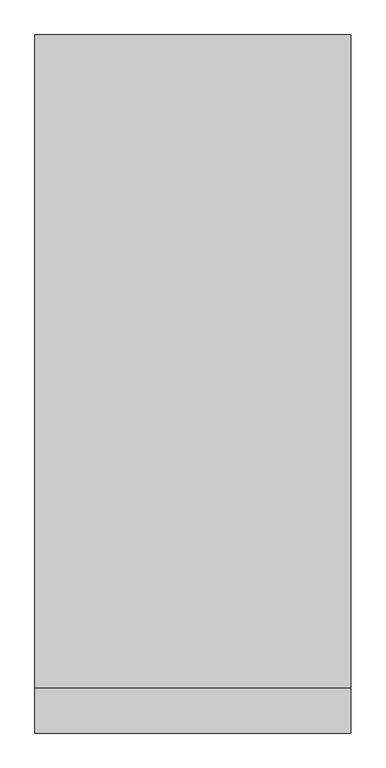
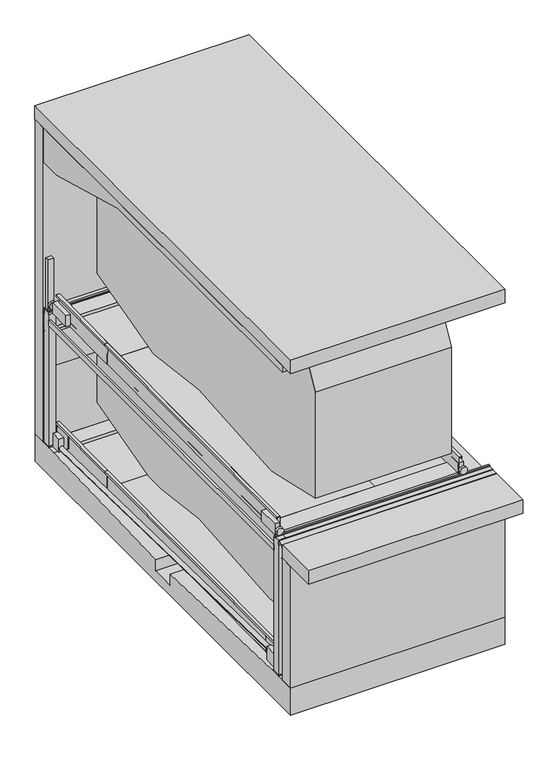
"""IFC4 building model written with IfcOpenShell, lengths in millimetres: proxy geometry, TrendVario_6100 : TrendVario_6100."""

from ifc_helpers import new_model, si_unit, point, frame, frame_2d, origin, place, context, project, spatial, polyline, circle_curve, trimmed, segment, composite_curve, outline, extrude, faceted_brep, source, transform, mapped, element, save
from ifc_brep_helpers import plane_surface, cylinder_surface, advanced_brep


def generic_models_f6fa3816(model_context):
    return source(origin(), model_context, "Body", "SolidModel", [
        extrude(outline(polyline([(0.0, -1500.0), (0.0, 0.0), (1170.0, 0.0), (1170.0, -1500.0), (0.0, -1500.0)])), frame((100.0, 4411.8759587, 12.9805913), z_axis=(0.0, -0.008726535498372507, 0.9999619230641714), x_axis=(0.0, 0.9999619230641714, 0.008726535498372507)), (0.0, 0.0, 1.0), 8.0),
        extrude(outline(polyline([(5343.3866911, 73.1117424), (5581.3776288, 75.1886579), (5581.7615964, 31.1903332), (5578.7617106, 31.1641536), (5578.4039226, 72.1625925), (5346.4127565, 70.1380362), (5346.7705444, 29.1395974), (5343.7706587, 29.1134178), (5343.3866911, 73.1117424)])), frame((100.0, 0.0, 0.0), z_axis=(1.0, 0.0, 0.0), x_axis=(0.0, 1.0, 0.0)), (0.0, 0.0, 1.0), 1500.0),
        extrude(outline(polyline([(320.0, 0.0), (320.0, -43.0), (290.0, -43.0), (290.0, -40.0), (317.0, -40.0), (317.0, -3.0), (0.0, -3.0), (0.0, 52.0), (47.0, 52.0), (47.0, 89.0), (49.9999999, 89.0), (49.9999999, 49.0), (2.9999999, 49.0), (2.9999999, 0.0), (320.0, 0.0)])), frame((100.0, 4412.3122854, -37.0175048), z_axis=(0.0, 0.9999619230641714, 0.008726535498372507), x_axis=(0.0, -0.008726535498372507, 0.9999619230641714)), (0.0, 0.0, 1.0), 1170.0),
        extrude(outline(composite_curve([segment(trimmed(circle_curve(frame_2d((-273.0, 50.2890841)), 6.0), [point((-273.0, 44.2890841))], [point((-273.0, 56.2890841))], False, "CARTESIAN"), True, "CONTINUOUS"), segment(trimmed(circle_curve(frame_2d((-273.0, 50.2890841)), 6.0), [point((-273.0, 56.2890841))], [point((-273.0, 44.2890841))], False, "CARTESIAN"), True, "CONTINUOUS")], self_intersect=False)), frame((0.0, 5774.7632152, 0.0), z_axis=(0.0, 1.0, 0.0), x_axis=(0.0, 0.0, 1.0)), (0.0, 0.0, 1.0), 150.0),
        extrude(outline(composite_curve([segment(trimmed(circle_curve(frame_2d((-273.0, 2650.0)), 6.0), [point((-267.0, 2650.0))], [point((-279.0, 2650.0))], False, "CARTESIAN"), True, "CONTINUOUS"), segment(trimmed(circle_curve(frame_2d((-273.0, 2650.0)), 6.0), [point((-279.0, 2650.0))], [point((-267.0, 2650.0))], False, "CARTESIAN"), True, "CONTINUOUS")], self_intersect=False)), frame((0.0, 5769.5664345, 0.0), z_axis=(0.0, 1.0, 0.0), x_axis=(0.0, 0.0, 1.0)), (0.0, 0.0, 1.0), 150.0),
        extrude(outline(composite_curve([segment(trimmed(circle_curve(frame_2d((-273.0, 2650.0)), 6.0), [point((-267.0, 2650.0))], [point((-279.0, 2650.0))], False, "CARTESIAN"), True, "CONTINUOUS"), segment(trimmed(circle_curve(frame_2d((-273.0, 2650.0)), 6.0), [point((-279.0, 2650.0))], [point((-267.0, 2650.0))], False, "CARTESIAN"), True, "CONTINUOUS")], self_intersect=False)), frame((0.0, -50.0, 0.0), z_axis=(0.0, 1.0, 0.0), x_axis=(0.0, 0.0, 1.0)), (0.0, 0.0, 1.0), 150.0),
        extrude(outline(composite_curve([segment(trimmed(circle_curve(frame_2d((-273.0, 50.0)), 6.0), [point((-273.0, 56.0))], [point((-273.0, 44.0))], False, "CARTESIAN"), True, "CONTINUOUS"), segment(trimmed(circle_curve(frame_2d((-273.0, 50.0)), 6.0), [point((-273.0, 44.0))], [point((-273.0, 56.0))], False, "CARTESIAN"), True, "CONTINUOUS")], self_intersect=False)), frame((0.0, -50.0, 0.0), z_axis=(0.0, 1.0, 0.0), x_axis=(0.0, 0.0, 1.0)), (0.0, 0.0, 1.0), 150.0),
        extrude(outline(composite_curve([segment(trimmed(circle_curve(frame_2d((145.0, 150.0)), 6.0), [point((139.0, 150.0))], [point((151.0, 150.0))], False, "CARTESIAN"), True, "CONTINUOUS"), segment(trimmed(circle_curve(frame_2d((145.0, 150.0)), 6.0), [point((151.0, 150.0))], [point((139.0, 150.0))], False, "CARTESIAN"), True, "CONTINUOUS")], self_intersect=False)), frame((0.0, 0.0, -2150.0), z_axis=(0.0, 0.0, 1.0), x_axis=(1.0, 0.0, 0.0)), (0.0, 0.0, 1.0), 150.0),
        extrude(outline(composite_curve([segment(trimmed(circle_curve(frame_2d((2555.0, 150.0)), 6.0), [point((2549.0, 150.0))], [point((2561.0, 150.0))], False, "CARTESIAN"), True, "CONTINUOUS"), segment(trimmed(circle_curve(frame_2d((2555.0, 150.0)), 6.0), [point((2561.0, 150.0))], [point((2549.0, 150.0))], False, "CARTESIAN"), True, "CONTINUOUS")], self_intersect=False)), frame((0.0, 0.0, -2150.0), z_axis=(0.0, 0.0, 1.0), x_axis=(1.0, 0.0, 0.0)), (0.0, 0.0, 1.0), 150.0),
        extrude(outline(composite_curve([segment(trimmed(circle_curve(frame_2d((2555.0, 5722.5588178)), 6.0), [point((2549.0, 5722.5588178))], [point((2561.0, 5722.5588178))], False, "CARTESIAN"), True, "CONTINUOUS"), segment(trimmed(circle_curve(frame_2d((2555.0, 5722.5588178)), 6.0), [point((2561.0, 5722.5588178))], [point((2549.0, 5722.5588178))], False, "CARTESIAN"), True, "CONTINUOUS")], self_intersect=False)), frame((0.0, 0.0, -2150.0), z_axis=(0.0, 0.0, 1.0), x_axis=(1.0, 0.0, 0.0)), (0.0, 0.0, 1.0), 150.0),
        extrude(outline(polyline([(320.0, 0.0), (3.0, 0.0), (3.0, -49.0), (49.9999999, -49.0), (49.9999999, -89.0), (47.0, -89.0), (47.0, -52.0), (0.0, -52.0), (0.0, 3.0), (317.0, 3.0), (317.0, 40.0), (290.0, 40.0), (290.0, 43.0), (320.0, 43.0), (320.0, 0.0)])), frame((2600.0, 237.7412679, -1960.4094164), z_axis=(0.0, 0.9999619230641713, 0.008726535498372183), x_axis=(0.0, -0.008726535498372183, 0.9999619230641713)), (0.0, 0.0, 1.0), 4178.0),
        extrude(outline(polyline([(1941.867435, 0.0), (1941.867435, -1000.0), (-1962.132565, -1000.0), (-1962.132565, 0.0), (1941.867435, 0.0)])), frame((1600.0, 2473.3523611, -1890.89763), z_axis=(0.0, -0.008726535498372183, 0.9999619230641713), x_axis=(0.0, 0.9999619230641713, 0.008726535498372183)), (0.0, 0.0, 1.0), 8.0),
        extrude(outline(polyline([(0.0, -136.0), (0.0, 0.0), (67.0, 0.0), (67.0, -136.0), (0.0, -136.0)])), frame((20.0, 5591.7992407, -1943.6900531), z_axis=(0.0, -0.008726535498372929, 0.9999619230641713), x_axis=(1.0, 0.0, 0.0)), (0.0, 0.0, 1.0), 195.0),
        extrude(outline(polyline([(5613.3985296, -1668.4910874), (5616.1473883, -1983.4790932), (5481.1525287, -1984.6571755), (5344.9795868, -1850.8403982), (5342.7979529, -1600.8499174), (5582.7888144, -1598.7555489), (5583.3996719, -1668.7528835), (5613.3985296, -1668.4910874)])), frame((87.0, 0.0, 0.0), z_axis=(1.0, 0.0, 0.0), x_axis=(0.0, 1.0, 0.0)), (0.0, 0.0, 1.0), 10.0),
        extrude(outline(polyline([(0.0, -1500.0), (0.0, 0.0), (1170.0, 0.0), (1170.0, -1500.0), (0.0, -1500.0)])), frame((100.0, 4415.1458963, -1873.955505), z_axis=(0.0, -0.008726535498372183, 0.9999619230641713), x_axis=(0.0, 0.9999619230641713, 0.008726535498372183)), (0.0, 0.0, 1.0), 8.0),
        extrude(outline(polyline([(5346.6566288, -1813.8243539), (5584.6475665, -1811.7474385), (5585.031534, -1855.7457631), (5582.0316483, -1855.7719427), (5581.6738603, -1814.7735039), (5349.6826942, -1816.7980601), (5350.0404821, -1857.7964989), (5347.0405963, -1857.8226786), (5346.6566288, -1813.8243539)])), frame((100.0, 0.0, 0.0), z_axis=(1.0, 0.0, 0.0), x_axis=(0.0, 1.0, 0.0)), (0.0, 0.0, 1.0), 1500.0),
        extrude(outline(polyline([(320.0, 0.0), (320.0, -43.0), (290.0, -43.0), (290.0, -40.0), (317.0, -40.0), (317.0, -3.0), (0.0, -3.0), (0.0, 52.0), (47.0, 52.0), (47.0, 89.0), (50.0, 89.0), (50.0, 49.0), (3.0, 49.0), (3.0, 0.0), (320.0, 0.0)])), frame((100.0, 4415.5822231, -1923.9536012), z_axis=(0.0, 0.9999619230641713, 0.008726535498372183), x_axis=(0.0, -0.008726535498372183, 0.9999619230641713)), (0.0, 0.0, 1.0), 1170.0),
        extrude(outline(polyline([(320.0, 0.0), (3.0, 0.0), (3.0, -49.0), (49.9999999, -49.0), (49.9999999, -89.0), (47.0, -89.0), (47.0, -52.0), (0.0, -52.0), (0.0, 3.0), (317.0, 3.0), (317.0, 40.0), (290.0, 40.0), (290.0, 43.0), (320.0, 43.0), (320.0, 0.0)])), frame((2600.0, 232.7875414, -73.2083418), z_axis=(0.0, 0.9999619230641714, 0.008726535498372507), x_axis=(0.0, -0.008726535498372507, 0.9999619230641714)), (0.0, 0.0, 1.0), 4178.0),
        extrude(outline(polyline([(1941.867435, 0.0), (1941.867435, -1000.0), (-1962.132565, -1000.0), (-1962.132565, 0.0), (1941.867435, 0.0)])), frame((1600.0, 2468.3986345, -3.6965555), z_axis=(0.0, -0.008726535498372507, 0.9999619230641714), x_axis=(0.0, 0.9999619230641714, 0.008726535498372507)), (0.0, 0.0, 1.0), 8.0),
        extrude(outline(composite_curve([segment(trimmed(circle_curve(frame_2d((145.0, 5722.5588178)), 6.0), [point((139.0, 5722.5588178))], [point((151.0, 5722.5588178))], False, "CARTESIAN"), True, "CONTINUOUS"), segment(trimmed(circle_curve(frame_2d((145.0, 5722.5588178)), 6.0), [point((151.0, 5722.5588178))], [point((139.0, 5722.5588178))], False, "CARTESIAN"), True, "CONTINUOUS")], self_intersect=False)), frame((0.0, 0.0, -2150.0), z_axis=(0.0, 0.0, 1.0), x_axis=(1.0, 0.0, 0.0)), (0.0, 0.0, 1.0), 150.0),
        extrude(outline(polyline([(5999.9581167, -2000.0), (5999.9581167, -2400.0), (-200.0, -2400.0), (-200.0, -2000.0), (250.0, -2000.0), (2725.0057083, -2086.4291038), (2725.0057083, -2247.5791163), (3075.0057083, -2247.5791163), (3075.0057083, -2086.4272426), (5549.9581167, -2000.0), (5999.9581167, -2000.0)])), frame((0.0, 0.0, 0.0), z_axis=(1.0, 0.0, 0.0), x_axis=(0.0, 1.0, 0.0)), (0.0, 0.0, 1.0), 3000.0),
        extrude(outline(polyline([(0.0, 5671.7632152), (30.0, 5671.7632152), (30.0, 200.0), (0.0, 200.0), (0.0, 5671.7632152)])), frame((0.0, 0.0, -200.0), z_axis=(0.0, 0.0, 1.0), x_axis=(1.0, 0.0, 0.0)), (0.0, 0.0, 1.0), 80.0),
        extrude(outline(polyline([(164.0, 210.0), (164.0, 90.0), (0.0, 90.0), (0.0, 210.0), (164.0, 210.0)])), frame((0.0, 0.0, -2000.0), z_axis=(0.0, 0.0, 1.0), x_axis=(1.0, 0.0, 0.0)), (0.0, 0.0, 1.0), 18.0),
        extrude(outline(polyline([(164.0, 5784.7632152), (164.0, 5661.7632152), (0.0, 5661.7632152), (0.0, 5784.7632152), (164.0, 5784.7632152)])), frame((0.0, 0.0, -2000.0), z_axis=(0.0, 0.0, 1.0), x_axis=(1.0, 0.0, 0.0)), (0.0, 0.0, 1.0), 18.0),
        extrude(outline(polyline([(2536.0, 5779.5664345), (2700.0, 5779.5664345), (2700.0, 5659.5664345), (2536.0, 5659.5664345), (2536.0, 5779.5664345)])), frame((0.0, 0.0, -2000.0), z_axis=(0.0, 0.0, 1.0), x_axis=(1.0, 0.0, 0.0)), (0.0, 0.0, 1.0), 18.0),
        extrude(outline(polyline([(2536.0, 90.0), (2536.0, 210.0), (2700.0, 210.0), (2700.0, 90.0), (2536.0, 90.0)])), frame((0.0, 0.0, -2000.0), z_axis=(0.0, 0.0, 1.0), x_axis=(1.0, 0.0, 0.0)), (0.0, 0.0, 1.0), 18.0),
        extrude(outline(composite_curve([segment(trimmed(circle_curve(frame_2d((-34.8939913, -3.2601795)), 30.0), [point((-64.8939913, -3.2601795))], [point((-4.8939913, -3.2601795))], False, "CARTESIAN"), True, "CONTINUOUS"), segment(trimmed(circle_curve(frame_2d((-34.8939913, -3.2601795)), 30.0), [point((-4.8939913, -3.2601795))], [point((-64.8939913, -3.2601795))], False, "CARTESIAN"), True, "CONTINUOUS")], self_intersect=False)), frame((20.0, 5455.4339411, -1902.4242792), z_axis=(0.0, -0.9997806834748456, 0.02094241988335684), x_axis=(-1.0, 0.0, 0.0)), (0.0, 0.0, 1.0), 5042.7986422),
        extrude(outline(composite_curve([segment(trimmed(circle_curve(frame_2d((39.6709454, 48.2295861)), 30.0), [point((9.6709454, 48.2295861))], [point((69.6709454, 48.2295861))], False, "CARTESIAN"), True, "CONTINUOUS"), segment(trimmed(circle_curve(frame_2d((39.6709454, 48.2295861)), 30.0), [point((69.6709454, 48.2295861))], [point((9.6709454, 48.2295861))], False, "CARTESIAN"), True, "CONTINUOUS")], self_intersect=False)), frame((2603.0, 5455.8267219, -1947.4325068), z_axis=(0.0, -0.9997806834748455, 0.020942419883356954), x_axis=(1.0, 0.0, 0.0)), (0.0, 0.0, 1.0), 5043.1761415),
        faceted_brep([(2670.0, 210.0, -120.0), (2670.0, 210.0, -200.0), (3000.0, 210.0, -200.0), (3000.0, 210.0, -120.0), (3000.0, 5659.5664345, -120.0), (3000.0, 5659.5664345, -200.0), (2673.0, 5659.5664345, -200.0), (2673.0, 5659.5664345, -120.0), (2670.0, 232.7875088, -120.0), (2670.0, 232.7875088, -200.0), (2670.0, 5656.8533035, -120.0), (2670.0, 5635.4173681, -200.0), (2670.0, 254.2234442, -200.0), (2673.0, 232.7875088, -200.0), (2673.0, 254.2234442, -200.0), (2673.0, 5635.4173681, -200.0), (2673.0, 5656.8533035, -120.0), (2673.0, 232.7875088, -120.0)], [[[0, 1, 2, 3]], [[4, 5, 6, 7]], [[1, 0, 8, 9]], [[10, 11, 12, 8]], [[2, 1, 9, 13, 14, 12, 11, 15, 6, 5]], [[3, 2, 5, 4]], [[0, 3, 4, 7, 16, 10, 8]], [[15, 16, 7, 6]], [[16, 15, 11, 10]], [[17, 14, 13]], [[8, 17, 13, 9]], [[17, 8, 12, 14]]]),
        extrude(outline(polyline([(2700.0, 5669.5664345), (2600.0, 5669.5664345), (2600.0, 5769.5664345), (2700.0, 5769.5664345), (2700.0, 5669.5664345)])), frame((0.0, 0.0, -2000.0), z_axis=(0.0, 0.0, 1.0), x_axis=(1.0, 0.0, 0.0)), (0.0, 0.0, 1.0), 2000.0),
        extrude(outline(polyline([(237.7566323, -1940.8501873), (236.1472757, -1756.4361785), (413.7566323, -1756.4361785), (413.7566323, -1939.3142585), (237.7566323, -1940.8501873)])), frame((2613.0, 0.0, 0.0), z_axis=(1.0, 0.0, 0.0), x_axis=(0.0, 1.0, 0.0)), (0.0, 0.0, 1.0), 70.0),
        extrude(outline(polyline([(237.7412679, -1960.4094164), (235.9626972, -1756.6053926), (413.7412679, -1756.6053926), (413.7412679, -1958.8734877), (237.7412679, -1960.4094164)])), frame((20.0, 0.0, 0.0), z_axis=(1.0, 0.0, 0.0), x_axis=(0.0, 1.0, 0.0)), (0.0, 0.0, 1.0), 70.0),
        extrude(outline(polyline([(0.0, -136.0), (0.0, 0.0), (67.0, 0.0), (67.0, -136.0), (0.0, -136.0)])), frame((2610.0, 5591.7992407, -1943.6900531), z_axis=(0.0, -0.008726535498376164, 0.9999619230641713), x_axis=(1.0, 0.0, 0.0)), (0.0, 0.0, 1.0), 195.0),
        extrude(outline(polyline([(2600.0, 200.0), (2700.0, 200.0), (2700.0, 100.0), (2600.0, 100.0), (2600.0, 200.0)])), frame((0.0, 0.0, -2000.0), z_axis=(0.0, 0.0, 1.0), x_axis=(1.0, 0.0, 0.0)), (0.0, 0.0, 1.0), 2000.0),
        extrude(outline(composite_curve([segment(polyline([(5620.0145776, -585.9914336), (5620.0145776, -1335.9999998), (5618.0221903, -1335.9999998), (5618.0221903, -1527.7646518), (4313.3699728, -1877.3451599)]), True, "CONTINUOUS"), segment(trimmed(circle_curve(frame_2d((4247.6299354, -1632.0)), 254.0), [point((4313.3699728, -1877.3451599))], [point((4224.7221662, -1884.9648871))], False, "CARTESIAN"), True, "CONTINUOUS"), segment(polyline([(4224.7221662, -1884.9648871), (3145.3807126, -1751.0), (1424.180165, -1884.6085614)]), True, "CONTINUOUS"), segment(trimmed(circle_curve(frame_2d((1397.6299354, -1632.0)), 254.0), [point((1424.180165, -1884.6085614))], [point((1340.4923675, -1879.4899965))], False, "CARTESIAN"), True, "CONTINUOUS"), segment(polyline([(1340.4923675, -1879.4899965), (320.456461, -1643.9961518), (320.456461, -689.5033287), (622.3673675, -136.0), (4020.0450351, -135.9999998), (5620.0145776, -585.9914336)]), True, "CONTINUOUS")], self_intersect=False)), frame((650.0, 0.0, 0.0), z_axis=(1.0, 0.0, 0.0), x_axis=(0.0, 1.0, 0.0)), (0.0, 0.0, 1.0), 1900.0),
        extrude(outline(polyline([(3000.0, -200.0), (0.0, -200.0), (0.0, 0.0), (3000.0, 0.0), (3000.0, -200.0)])), frame((0.0, 0.0, -2000.0), z_axis=(0.0, 0.0, 1.0), x_axis=(1.0, 0.0, 0.0)), (0.0, 0.0, 1.0), 1800.0),
        faceted_brep([(100.0, 4412.2895056, -1603.966424), (100.0, 4415.0558174, -1920.9543536), (149.0, 4415.0558174, -1920.9543536), (149.0, 4414.6456702, -1873.9561432), (189.0, 4414.6456702, -1873.9561432), (189.0, 4414.6718498, -1876.956029), (152.0, 4414.6718498, -1876.956029), (152.0, 4415.081997, -1923.9542393), (97.0, 4415.081997, -1923.9542393), (97.0, 4412.3156852, -1606.9663097), (60.0, 4412.3156852, -1606.9663097), (60.0, 4412.5513017, -1633.9652817), (57.0, 4412.5513017, -1633.9652817), (57.0, 4412.2895056, -1603.966424), (100.0, 237.741276, -1960.4093395), (100.0, 234.9487847, -1640.4215242), (57.0, 234.9487847, -1640.4215242), (57.0, 235.2105807, -1670.4203818), (60.0, 235.2105807, -1670.4203818), (60.0, 234.9749643, -1643.4214099), (97.0, 234.9749643, -1643.4214099), (97.0, 237.741276, -1960.4093395), (100.0, 337.7374683, -1959.536686), (100.0, 337.7112887, -1956.5368002), (149.0, 337.7112887, -1956.5368002), (149.0, 337.3011416, -1909.5385898), (189.0, 337.3011416, -1909.5385898), (189.0, 337.3273212, -1912.5384756), (152.0, 337.3273212, -1912.5384756), (152.0, 337.7374683, -1959.536686)], [[[0, 1, 2, 3, 4, 5, 6, 7, 8, 9, 10, 11, 12, 13]], [[14, 15, 16, 17, 18, 19, 20, 21]], [[1, 0, 15, 14, 22, 23]], [[2, 1, 23, 24]], [[3, 2, 24, 25]], [[4, 3, 25, 26]], [[5, 4, 26, 27]], [[6, 5, 27, 28]], [[7, 6, 28, 29]], [[8, 7, 29, 22, 14, 21]], [[9, 8, 21, 20]], [[10, 9, 20, 19]], [[11, 10, 19, 18]], [[12, 11, 18, 17]], [[13, 12, 17, 16]], [[0, 13, 16, 15]], [[23, 22, 29, 28, 27, 26, 25, 24]]]),
        extrude(outline(polyline([(556.8174373, -1957.6248809), (237.7412679, -1960.4094164), (235.9626972, -1756.6053926), (322.913076, -1669.6550138), (556.8174373, -1667.6137613), (556.8174373, -1957.6248809)])), frame((90.0, 0.0, 0.0), z_axis=(1.0, 0.0, 0.0), x_axis=(0.0, 1.0, 0.0)), (0.0, 0.0, 1.0), 10.0),
        extrude(outline(polyline([(342.6444987, -1649.9235911), (556.8174373, -1648.0545322), (556.8174373, -1938.0656517), (237.7412679, -1940.8501873), (236.1319113, -1756.4361785), (342.6444987, -1649.9235911)])), frame((2603.0, 0.0, 0.0), z_axis=(1.0, 0.0, 0.0), x_axis=(0.0, 1.0, 0.0)), (0.0, 0.0, 1.0), 10.0),
        extrude(outline(polyline([(5582.7713613, -1596.755625), (5583.3996719, -1668.7528835), (5613.3985296, -1668.4910874), (5616.1473883, -1983.4790932), (5481.1525287, -1984.6571755), (5344.9795868, -1850.8403982), (5342.7804998, -1598.8499935), (5582.7713613, -1596.755625)])), frame((2600.0, 0.0, 0.0), z_axis=(1.0, 0.0, 0.0), x_axis=(0.0, 1.0, 0.0)), (0.0, 0.0, 1.0), 10.0),
        extrude(outline(polyline([(2600.0, 511.2945081), (2600.0, 241.2945081), (100.0, 241.2945081), (100.0, 511.2945081), (2600.0, 511.2945081)])), frame((0.0, 0.0, -1888.4610204), z_axis=(0.0, 0.0, 1.0), x_axis=(1.0, 0.0, 0.0)), (0.0, 0.0, 1.0), 30.0),
        extrude(outline(polyline([(319.9999232, -43.0), (2.9999232, -43.0), (2.9999232, -92.0), (49.9999231, -92.0), (49.9999231, -132.0), (46.9999232, -132.0), (46.9999232, -95.0), (-7.68e-05, -95.0), (-7.68e-05, -40.0), (316.9999232, -40.0), (316.9999232, -3.0), (289.9999232, -3.0), (289.9999232, 0.0), (319.9999232, 0.0), (319.9999232, -43.0)])), frame((2643.0, 4415.5821906, -1923.9498742), z_axis=(0.0, 0.9999619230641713, 0.008726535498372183), x_axis=(0.0, -0.008726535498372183, 0.9999619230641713)), (0.0, 0.0, 1.0), 1183.1966017),
        extrude(outline(polyline([(100.4126792, 0.0), (100.4126792, -1170.5002127), (-899.5873208, -1170.5002127), (-899.5873208, 0.0), (100.4126792, 0.0)])), frame((2499.5873208, 5585.1013463, -1863.7454585), z_axis=(0.0, -0.008726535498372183, 0.9999619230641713), x_axis=(1.0, 0.0, 0.0)), (0.0, 0.0, 1.0), 8.0),
        extrude(outline(polyline([(5587.3833555, -1811.7198364), (5587.767323, -1855.718161), (5584.7674373, -1855.7443406), (5584.4096493, -1814.7459018), (5352.4184831, -1816.770458), (5352.7762711, -1857.7688968), (5349.7763853, -1857.7950764), (5349.3924178, -1813.7967518), (5587.3833555, -1811.7198364)])), frame((1600.0, 0.0, 0.0), z_axis=(1.0, 0.0, 0.0), x_axis=(0.0, 1.0, 0.0)), (0.0, 0.0, 1.0), 1000.0),
        extrude(outline(polyline([(2038.9337722, 0.0), (2038.9337722, -1500.0), (-1864.3763713, -1500.0), (-1864.3763713, 0.0), (2038.9337722, 0.0)])), frame((1600.0, 2550.3403211, -1890.2294167), z_axis=(0.0, -0.008726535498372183, 0.9999619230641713), x_axis=(0.0, -0.9999619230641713, -0.008726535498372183)), (0.0, 0.0, 1.0), 8.0),
        extrude(outline(polyline([(555.3027268, 0.3516465), (235.3027268, -2.4409511), (235.3027268, 157.5651414), (555.3027268, 160.3577391), (555.3027268, 0.3516465)])), frame((30.0, 0.0, 0.0), z_axis=(1.0, 0.0, 0.0), x_axis=(0.0, 1.0, 0.0)), (0.0, 0.0, 1.0), 70.0),
        extrude(outline(polyline([(5627.0221903, 0.3516465), (5307.0221903, -2.4409511), (5307.0221903, 157.5651414), (5627.0221903, 160.3577391), (5627.0221903, 0.3516465)])), frame((30.0, 0.0, 0.0), z_axis=(1.0, 0.0, 0.0), x_axis=(0.0, 1.0, 0.0)), (0.0, 0.0, 1.0), 70.0),
        extrude(outline(composite_curve([segment(trimmed(circle_curve(frame_2d((73.3516465, 66.0)), 50.0), [point((73.3516465, 16.0))], [point((73.3516465, 116.0))], False, "CARTESIAN"), True, "CONTINUOUS"), segment(trimmed(circle_curve(frame_2d((73.3516465, 66.0)), 50.0), [point((73.3516465, 116.0))], [point((73.3516465, 16.0))], False, "CARTESIAN"), True, "CONTINUOUS")], self_intersect=False)), frame((0.0, 165.3027268, 0.0), z_axis=(0.0, 1.0, 0.0), x_axis=(0.0, 0.0, 1.0)), (0.0, 0.0, 1.0), 35.0),
        extrude(outline(composite_curve([segment(trimmed(circle_curve(frame_2d((73.3516465, 66.0)), 15.0), [point((73.3516465, 51.0))], [point((73.3516465, 81.0))], False, "CARTESIAN"), True, "CONTINUOUS"), segment(trimmed(circle_curve(frame_2d((73.3516465, 66.0)), 15.0), [point((73.3516465, 81.0))], [point((73.3516465, 51.0))], False, "CARTESIAN"), True, "CONTINUOUS")], self_intersect=False)), frame((0.0, 200.3027268, 0.0), z_axis=(0.0, 1.0, 0.0), x_axis=(0.0, 0.0, 1.0)), (0.0, 0.0, 1.0), 35.0),
        extrude(outline(composite_curve([segment(trimmed(circle_curve(frame_2d((73.3516465, 66.0)), 50.0), [point((73.3516465, 16.0))], [point((73.3516465, 116.0))], False, "CARTESIAN"), True, "CONTINUOUS"), segment(trimmed(circle_curve(frame_2d((73.3516465, 66.0)), 50.0), [point((73.3516465, 116.0))], [point((73.3516465, 16.0))], False, "CARTESIAN"), True, "CONTINUOUS")], self_intersect=False)), frame((0.0, 5672.0221903, 0.0), z_axis=(0.0, 1.0, 0.0), x_axis=(0.0, 0.0, 1.0)), (0.0, 0.0, 1.0), 35.0),
        extrude(outline(composite_curve([segment(trimmed(circle_curve(frame_2d((73.3516465, 66.0)), 15.0), [point((73.3516465, 51.0))], [point((73.3516465, 81.0))], False, "CARTESIAN"), True, "CONTINUOUS"), segment(trimmed(circle_curve(frame_2d((73.3516465, 66.0)), 15.0), [point((73.3516465, 81.0))], [point((73.3516465, 51.0))], False, "CARTESIAN"), True, "CONTINUOUS")], self_intersect=False)), frame((0.0, 5627.0221903, 0.0), z_axis=(0.0, 1.0, 0.0), x_axis=(0.0, 0.0, 1.0)), (0.0, 0.0, 1.0), 45.0),
        extrude(outline(polyline([(320.0, 0.0), (320.0, -43.0), (290.0, -43.0), (290.0, -40.0), (317.0, -40.0), (317.0, -3.0), (0.0, -3.0), (0.0, 52.0), (47.0, 52.0), (47.0, 89.0), (50.0, 89.0), (50.0, 49.0), (3.0, 49.0), (3.0, 0.0), (320.0, 0.0)])), frame((100.0, 232.7875088, -73.2046149), z_axis=(0.0, 0.9999619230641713, 0.008726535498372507), x_axis=(0.0, -0.008726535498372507, 0.9999619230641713)), (0.0, 0.0, 1.0), 4177.4997873),
        extrude(outline(polyline([(555.3027268, 0.3516465), (235.3027268, -2.4409511), (235.3027268, 157.5651414), (555.3027268, 160.3577391), (555.3027268, 0.3516465)])), frame((2600.0, 0.0, 0.0), z_axis=(1.0, 0.0, 0.0), x_axis=(0.0, 1.0, 0.0)), (0.0, 0.0, 1.0), 70.0),
        extrude(outline(composite_curve([segment(trimmed(circle_curve(frame_2d((73.3516465, 2635.0)), 50.0), [point((73.3516465, 2685.0))], [point((73.3516465, 2585.0))], False, "CARTESIAN"), True, "CONTINUOUS"), segment(trimmed(circle_curve(frame_2d((73.3516465, 2635.0)), 50.0), [point((73.3516465, 2585.0))], [point((73.3516465, 2685.0))], False, "CARTESIAN"), True, "CONTINUOUS")], self_intersect=False)), frame((0.0, 165.3027268, 0.0), z_axis=(0.0, 1.0, 0.0), x_axis=(0.0, 0.0, 1.0)), (0.0, 0.0, 1.0), 35.0),
        extrude(outline(composite_curve([segment(trimmed(circle_curve(frame_2d((73.3516465, 2635.0)), 15.0), [point((73.3516465, 2650.0))], [point((73.3516465, 2620.0))], False, "CARTESIAN"), True, "CONTINUOUS"), segment(trimmed(circle_curve(frame_2d((73.3516465, 2635.0)), 15.0), [point((73.3516465, 2620.0))], [point((73.3516465, 2650.0))], False, "CARTESIAN"), True, "CONTINUOUS")], self_intersect=False)), frame((0.0, 200.3027268, 0.0), z_axis=(0.0, 1.0, 0.0), x_axis=(0.0, 0.0, 1.0)), (0.0, 0.0, 1.0), 35.0),
        extrude(outline(polyline([(0.0, 5677.3612215), (0.0, 5702.3612215), (3000.0, 5702.3612215), (3000.0, 5677.3612215), (0.0, 5677.3612215)])), frame((0.0, 0.0, 8.0), z_axis=(0.0, 0.0, 1.0), x_axis=(1.0, 0.0, 0.0)), (0.0, 0.0, 1.0), 15.0),
        extrude(outline(polyline([(5778.1588219, 0.0), (5778.1588219, -80.0), (5775.1766811, -80.0), (5775.1766811, -3.0), (5669.5588219, -3.0), (5669.5588219, -30.0), (5666.5588219, -30.0), (5666.5588219, 0.0), (5778.1588219, 0.0)])), frame((0.0, 0.0, 0.0), z_axis=(1.0, 0.0, 0.0), x_axis=(0.0, 1.0, 0.0)), (0.0, 0.0, 1.0), 3000.0),
        extrude(outline(composite_curve([segment(trimmed(circle_curve(frame_2d((73.3516465, 2635.0)), 50.0), [point((73.3516465, 2685.0))], [point((73.3516465, 2585.0))], False, "CARTESIAN"), True, "CONTINUOUS"), segment(trimmed(circle_curve(frame_2d((73.3516465, 2635.0)), 50.0), [point((73.3516465, 2585.0))], [point((73.3516465, 2685.0))], False, "CARTESIAN"), True, "CONTINUOUS")], self_intersect=False)), frame((0.0, 5672.0221903, 0.0), z_axis=(0.0, 1.0, 0.0), x_axis=(0.0, 0.0, 1.0)), (0.0, 0.0, 1.0), 35.0),
        extrude(outline(composite_curve([segment(trimmed(circle_curve(frame_2d((73.3516465, 2635.0)), 15.0), [point((73.3516465, 2650.0))], [point((73.3516465, 2620.0))], False, "CARTESIAN"), True, "CONTINUOUS"), segment(trimmed(circle_curve(frame_2d((73.3516465, 2635.0)), 15.0), [point((73.3516465, 2620.0))], [point((73.3516465, 2650.0))], False, "CARTESIAN"), True, "CONTINUOUS")], self_intersect=False)), frame((0.0, 5627.0221903, 0.0), z_axis=(0.0, 1.0, 0.0), x_axis=(0.0, 0.0, 1.0)), (0.0, 0.0, 1.0), 45.0),
        extrude(outline(polyline([(5627.0221903, 0.3516465), (5307.0221903, -2.4409511), (5307.0221903, 157.5651414), (5627.0221903, 160.3577391), (5627.0221903, 0.3516465)])), frame((2600.0, 0.0, 0.0), z_axis=(1.0, 0.0, 0.0), x_axis=(0.0, 1.0, 0.0)), (0.0, 0.0, 1.0), 70.0),
        extrude(outline(polyline([(506.3333687, 1.7621074), (506.6824301, -38.2363695), (503.6825444, -38.2625491), (503.3596625, -1.263958), (261.7372106, -3.3725652), (105.9840281, -46.5667455), (112.3977491, -69.6938764), (133.5976191, -63.8146321), (134.3993342, -66.7055235), (110.3085729, -73.3864829), (102.2914216, -44.4775693), (261.3160886, -0.376126), (506.3333687, 1.7621074)])), frame((100.0, 0.0, 0.0), z_axis=(1.0, 0.0, 0.0), x_axis=(0.0, 1.0, 0.0)), (0.0, 0.0, 1.0), 2500.0),
        extrude(outline(polyline([(319.9719043, 0.0), (2.9719044, 0.0), (2.9719044, -49.0), (49.9719044, -49.0), (49.9719044, -89.0), (46.9719043, -89.0), (46.9719043, -52.0), (-0.0280957, -52.0), (-0.0280957, 3.0), (316.9719043, 3.0), (316.9719043, 40.0), (289.9719043, 40.0), (289.9719043, 43.0), (319.9719043, 43.0), (319.9719043, 0.0)])), frame((2600.0, 4410.6284234, -36.7451495), z_axis=(0.0, 0.9999619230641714, 0.008726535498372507), x_axis=(0.0, -0.008726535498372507, 0.9999619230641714)), (0.0, 0.0, 1.0), 1171.6814212),
        extrude(outline(polyline([(100.4126792, 0.0), (100.4126792, -1167.2107697), (-899.5873208, -1167.2107697), (-899.5873208, 0.0), (100.4126792, 0.0)])), frame((2499.5873208, 5576.8582614, 23.4305607), z_axis=(0.0, -0.008726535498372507, 0.9999619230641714), x_axis=(1.0, 0.0, 0.0)), (0.0, 0.0, 1.0), 8.0),
        extrude(outline(polyline([(5579.1402706, 75.4561828), (5579.5242381, 31.4578582), (5576.5243524, 31.4316786), (5576.1665644, 72.4301175), (5344.1753983, 70.4055612), (5344.5331862, 29.4071224), (5341.5333004, 29.3809428), (5341.1493329, 73.3792674), (5579.1402706, 75.4561828)])), frame((1600.0, 0.0, 0.0), z_axis=(1.0, 0.0, 0.0), x_axis=(0.0, 1.0, 0.0)), (0.0, 0.0, 1.0), 1000.0),
        extrude(outline(polyline([(2038.9337722, 0.0), (2038.9337722, -1500.0), (-1864.3763713, -1500.0), (-1864.3763713, 0.0), (2038.9337722, 0.0)])), frame((1600.0, 2545.3865539, -3.0246921), z_axis=(0.0, -0.008726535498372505, 0.9999619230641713), x_axis=(0.0, -0.9999619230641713, -0.008726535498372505)), (0.0, 0.0, 1.0), 8.0),
        extrude(outline(polyline([(0.0, -630.5625149), (0.0, 0.0), (3000.0, 0.0), (3000.0, -630.5625149), (0.0, -630.5625149)])), frame((0.0, 0.0, -200.0), z_axis=(0.0, 0.0, 1.0), x_axis=(1.0, 0.0, 0.0)), (0.0, 0.0, 1.0), 200.0),
        faceted_brep([(100.0, 200.0, 8.0), (0.0, 200.0, 8.0), (0.0, 100.0, 8.0), (100.0, 100.0, 8.0), (100.0, 200.0, -2000.0), (100.0, 100.0, -2000.0), (0.0, 100.0, -2000.0), (0.0, 200.0, -2000.0), (0.0, 100.0, -1.0), (0.0, 100.0, 0.0), (100.0, 100.0, -1.0), (100.0, 100.0, 0.0)], [[[0, 1, 2, 3]], [[4, 5, 6, 7]], [[1, 0, 4, 7]], [[2, 1, 7, 6, 8, 9]], [[3, 2, 9, 8, 6, 5, 10, 11]], [[0, 3, 11, 10, 5, 4]]]),
        faceted_brep([(3000.0, 5467.6439919, 2151.0), (3000.0, 3999.9276592, 2551.0062257), (0.0, 3999.9505029, 2551.0), (0.0, 5467.6439919, 2151.0), (3000.0, 5799.9276592, 2151.0), (3000.0, 5799.9276592, 2651.0), (3000.0, 0.0, 2651.0), (3000.0, 0.0, 2551.0), (0.0, 5799.9276592, 2651.0), (0.0, 5799.9276592, 2151.0), (0.0, 0.0, 2551.0), (0.0, 0.0, 2651.0)], [[[0, 1, 2, 3]], [[4, 5, 6, 7, 1, 0]], [[8, 9, 3, 2, 10, 11]], [[5, 4, 9, 8]], [[6, 5, 8, 11]], [[9, 4, 0, 3]], [[7, 10, 2, 1]], [[7, 6, 11, 10]]]),
        faceted_brep([(97.0, 5714.7632152, -1.0), (97.0, 5771.7632152, -1.0), (100.0, 5771.7632152, -1.0), (100.0, 5711.7632152, -1.0), (22.0, 5711.7632152, -1.0), (22.0, 5714.7632152, -1.0), (100.0, 5771.7632152, 0.0), (97.0, 5771.7632152, 0.0), (97.0, 5714.7632152, 0.0), (22.0, 5714.7632152, 0.0), (22.0, 5711.7632152, 0.0), (100.0, 5711.7632152, 0.0), (97.0, 5714.7632152, 0.0), (97.0, 5774.7632152, 740.0), (22.0, 5774.7632152, 740.0), (22.0, 5714.7632152, 740.0), (97.0, 5714.7632152, 740.0), (22.0, 5774.7632152, 0.0), (97.0, 5774.7632152, 0.0), (22.0, 5771.7632152, 0.0)], [[[0, 1, 2, 3, 4, 5]], [[6, 7, 8, 9, 10, 11]], [[3, 2, 6, 11]], [[1, 0, 12, 7]], [[13, 14, 15, 16]], [[17, 18, 7, 12, 9, 19]], [[13, 16, 8, 7, 18]], [[16, 15, 9, 8]], [[15, 14, 17, 19, 9]], [[14, 13, 18, 17]], [[2, 1, 7, 6]], [[5, 9, 12, 0]], [[5, 4, 10, 9]], [[4, 3, 11, 10]]]),
        faceted_brep([(100.0, 5671.7632152, -3.0), (100.0, 5774.7632152, -3.0), (0.0, 5774.7632152, -3.0), (0.0, 5671.7632152, -3.0), (100.0, 5671.7632152, -2000.0), (0.0, 5671.7632152, -2000.0), (0.0, 5774.7632152, -2000.0), (100.0, 5774.7632152, -2000.0)], [[[0, 1, 2, 3]], [[4, 5, 6, 7]], [[1, 0, 4, 7]], [[2, 1, 7, 6]], [[3, 2, 6, 5]], [[0, 3, 5, 4]]]),
        advanced_brep(
        [(650.0, 5620.0145776, 382.7692068), (650.0, 4313.3699728, 32.6548401), (650.0, 4224.7221662, 25.0351129), (650.0, 3145.3807126, 159.0), (650.0, 1424.180165, 25.3914386), (650.0, 1340.4923675, 30.5100035), (650.0, 320.456461, 266.0038482), (650.0, 320.456461, 1835.4966713), (650.0, 649.6400948, 2439.0), (650.0, 3664.4894819, 2439.0000002), (650.0, 5620.0145794, 1889.0085665), (2550.0, 320.456461, 266.0038482), (2550.0, 1340.4923675, 30.5100035), (2550.0, 1424.180165, 25.3914386), (2550.0, 3145.3807126, 159.0), (2550.0, 4224.7221662, 25.0351129), (2550.0, 4313.3699728, 32.6548401), (2550.0, 5620.0145776, 382.7692068), (2550.0, 5620.0145794, 1889.0085665), (2550.0, 3664.4894819, 2439.0000002), (2550.0, 649.6400948, 2439.0), (2550.0, 320.456461, 1835.4966713)],
        [
            (0, 1),
            (1, 2, circle_curve(frame((650.0, 4247.6299354, 278.0), z_axis=(-1.0, 0.0, 0.0), x_axis=(0.0, 1.0, 0.0)), 254.0)),
            (2, 3),
            (3, 4),
            (4, 5, circle_curve(frame((650.0, 1397.6299354, 278.0), z_axis=(-1.0, 0.0, 0.0), x_axis=(0.0, 1.0, 0.0)), 254.0)),
            (5, 6),
            (6, 7),
            (7, 8),
            (8, 9),
            (9, 10),
            (10, 0),
            (11, 12),
            (12, 13, circle_curve(frame((2550.0, 1397.6299354, 278.0), z_axis=(1.0, 0.0, 0.0), x_axis=(0.0, 1.0, 0.0)), 254.0)),
            (13, 14),
            (14, 15),
            (15, 16, circle_curve(frame((2550.0, 4247.6299354, 278.0), z_axis=(1.0, 0.0, 0.0), x_axis=(0.0, 1.0, 0.0)), 254.0)),
            (16, 17),
            (17, 18),
            (18, 19),
            (19, 20),
            (20, 21),
            (21, 11),
            (10, 18),
            (17, 0),
            (16, 1),
            (15, 2),
            (14, 3),
            (13, 4),
            (12, 5),
            (11, 6),
            (21, 7),
            (19, 9),
            (8, 20),
        ],
        [
            plane_surface(frame((650.0, 220.4923675, 0.0), z_axis=(-1.0, 0.0, 0.0), x_axis=(0.0, 0.0, 1.0))),
            plane_surface(frame((2550.0, 220.4923675, 0.0), z_axis=(1.0, 0.0, 0.0), x_axis=(0.0, 0.0, 1.0))),
            plane_surface(frame((650.0, 5620.0145776, 933.3953459), z_axis=(0.0, 1.0, 0.0), x_axis=(1.0, 0.0, 0.0))),
            plane_surface(frame((650.0, 5620.0145776, 382.7692068), z_axis=(0.0, 0.25881904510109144, -0.9659258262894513), x_axis=(1.0, 0.0, 0.0))),
            cylinder_surface(frame((650.0, 4247.6299354, 278.0), z_axis=(-1.0, 0.0, 0.0), x_axis=(0.0, 1.0, 0.0)), 254.0),
            plane_surface(frame((650.0, 4224.7221662, 25.0351129), z_axis=(0.0, -0.12317213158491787, -0.992385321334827), x_axis=(1.0, 0.0, 0.0))),
            plane_surface(frame((650.0, 3145.3807126, 159.0), z_axis=(0.0, 0.07739239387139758, -0.9970007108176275), x_axis=(1.0, 0.0, 0.0))),
            cylinder_surface(frame((650.0, 1397.6299354, 278.0), z_axis=(-1.0, 0.0, 0.0), x_axis=(0.0, 1.0, 0.0)), 254.0),
            plane_surface(frame((650.0, 1340.4923675, 30.5100035), z_axis=(0.0, -0.22495105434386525, -0.9743700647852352), x_axis=(1.0, 0.0, 0.0))),
            plane_surface(frame((650.0, 320.456461, 266.0038482), z_axis=(0.0, -1.0, 0.0), x_axis=(1.0, 0.0, 0.0))),
            plane_surface(frame((650.0, 1176.8709411, 2439.0000002), z_axis=(0.0, 0.0, 1.0), x_axis=(1.0, 0.0, 0.0))),
            plane_surface(frame((650.0, 3664.4894819, 2439.0000002), z_axis=(0.0, 0.27074557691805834, 0.9626509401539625), x_axis=(1.0, 0.0, 0.0))),
            plane_surface(frame((650.0, 320.456461, 1835.4966713), z_axis=(0.0, -0.8778955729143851, 0.478852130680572), x_axis=(1.0, 0.0, 0.0))),
        ],
        [
            (0, [[1, 2, 3, 4, 5, 6, 7, 8, 9, 10, 11]]),
            (1, [[12, 13, 14, 15, 16, 17, 18, 19, 20, 21, 22]]),
            (2, [[-11, 23, -18, 24]]),
            (3, [[-1, -24, -17, 25]]),
            (4, [[-2, -25, -16, 26]]),
            (5, [[-3, -26, -15, 27]]),
            (6, [[-4, -27, -14, 28]]),
            (7, [[-5, -28, -13, 29]]),
            (8, [[-6, -29, -12, 30]]),
            (9, [[-7, -30, -22, 31]]),
            (10, [[32, -9, 33, -20]]),
            (11, [[-10, -32, -19, -23]]),
            (12, [[-8, -31, -21, -33]]),
        ],
    ),
        extrude(outline(polyline([(0.0, 5721.7632152), (0.0, 5774.7632152), (3000.0, 5774.7632152), (3000.0, 5721.7632152), (0.0, 5721.7632152)])), frame((0.0, 0.0, -352.0), z_axis=(0.0, 0.0, 1.0), x_axis=(1.0, 0.0, 0.0)), (0.0, 0.0, 1.0), 25.0),
        extrude(outline(polyline([(700.0, 5769.5664345), (700.0, 5684.5664345), (100.0, 5684.5664345), (100.0, 5769.5664345), (700.0, 5769.5664345)])), frame((0.0, 0.0, -827.0), z_axis=(0.0, 0.0, 1.0), x_axis=(1.0, 0.0, 0.0)), (0.0, 0.0, 1.0), 500.0),
        extrude(outline(polyline([(2600.0, 5774.7632152), (2600.0, 5721.7632152), (97.0, 5721.7632152), (97.0, 5774.7632152), (2600.0, 5774.7632152)])), frame((0.0, 0.0, -352.0), z_axis=(0.0, 0.0, 1.0), x_axis=(1.0, 0.0, 0.0)), (0.0, 0.0, 1.0), 25.0),
        extrude(outline(polyline([(0.0, 169.9031048), (0.0, 194.9031048), (3000.0, 194.9031048), (3000.0, 169.9031048), (0.0, 169.9031048)])), frame((0.0, 0.0, 7.5), z_axis=(0.0, 0.0, 1.0), x_axis=(1.0, 0.0, 0.0)), (0.0, 0.0, 1.0), 15.0),
        extrude(outline(polyline([(100.0, 0.0), (100.0, -73.0), (97.0, -73.0), (97.0, 7.0), (203.0, 7.0), (203.0, -23.0), (200.0, -23.0), (200.0, 0.0), (100.0, 0.0)])), frame((0.0, 0.0, 0.0), z_axis=(1.0, 0.0, 0.0), x_axis=(0.0, 1.0, 0.0)), (0.0, 0.0, 1.0), 3000.0),
        extrude(outline(polyline([(96.5, 0.0), (96.5, -48.0), (93.5, -48.0), (93.5, -3.0), (13.0, -3.0), (13.0, -48.0), (10.0, -48.0), (10.0, 0.0), (96.5, 0.0)])), frame((0.0, 0.0, 0.0), z_axis=(1.0, 0.0, 0.0), x_axis=(0.0, 1.0, 0.0)), (0.0, 0.0, 1.0), 3000.0),
        extrude(outline(polyline([(3000.0, 5799.9276592), (0.0, 5799.9276592), (0.0, 5999.9581167), (3000.0, 5999.9581167), (3000.0, 5799.9276592)])), frame((0.0, 0.0, -2000.0), z_axis=(0.0, 0.0, 1.0), x_axis=(1.0, 0.0, 0.0)), (0.0, 0.0, 1.0), 4651.0),
        extrude(outline(polyline([(3000.0, -200.0), (0.0, -200.0), (0.0, 6002.7632152), (3000.0, 6002.7632152), (3000.0, -200.0)])), frame((0.0, 0.0, 2651.0), z_axis=(0.0, 0.0, 1.0), x_axis=(1.0, 0.0, 0.0)), (0.0, 0.0, 1.0), 200.0),
    ])


if __name__ == "__main__":
    model = new_model("IFC4")
    model_context = context("Model", 3, world=origin())
    ifc_project = project(units=[si_unit("LENGTHUNIT", "METRE", prefix="MILLI")], contexts=[model_context])
    site = spatial("IfcSite", under=ifc_project)
    building = spatial("IfcBuilding", under=site)
    placement = place(None, origin())
    generic_models_shape = generic_models_f6fa3816(model_context)
    element("IfcBuildingElementProxy", 1, Name="TrendVario_6100 : TrendVario_6100", ObjectType="TrendVario_6100 : TrendVario_6100", at=placement, inside=building, context=model_context, shape_type="MappedRepresentation", body=[
        mapped(generic_models_shape, transform((0.0, 0.0, 0.0), x_axis=(1.0, 0.0, 0.0), y_axis=(0.0, 1.0, 0.0), z_axis=(0.0, 0.0, 1.0))),
    ])
    save(model, "model.ifc")
